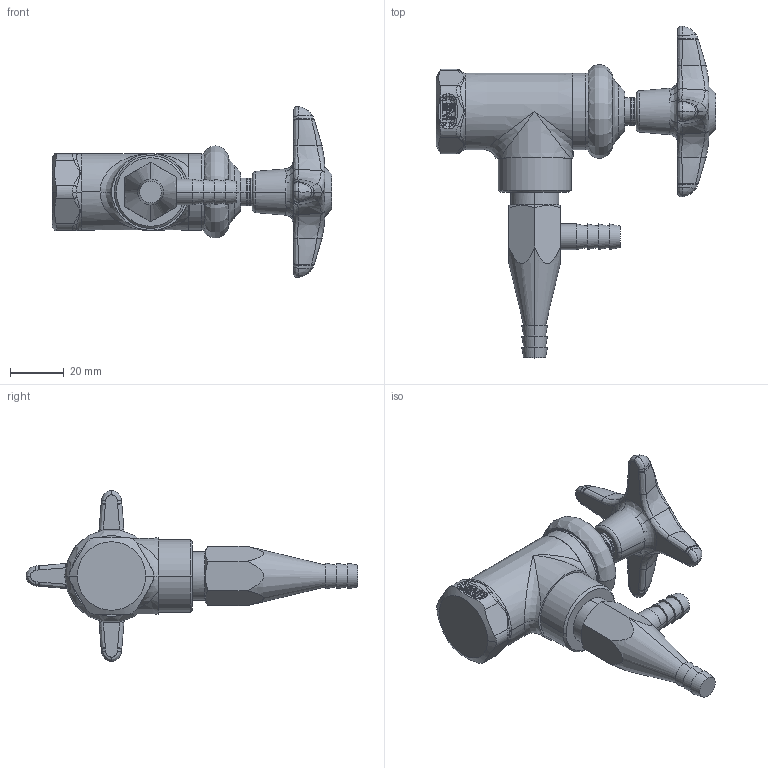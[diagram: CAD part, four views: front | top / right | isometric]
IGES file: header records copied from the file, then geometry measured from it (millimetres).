
Start section:  PTC IGES file: LWV2-C34.igs
Global section: file name: LWV2-C34.igs; native system: Creo Parametric by PTC Inc.; preprocessor: 2014500; author: usch_engrender; organization: Unknown; date: 20150903.150604; units: inch
Bounding box: 103.84 x 123.15 x 63.42 mm (x, y, z)
Volume: 82035 mm3; surface area: 20275.2 mm2
Topology: 1 solids, 4 shells, 458 faces, 1053 edges, 620 vertices
Faces by surface type: bspline 266, revolution 192
